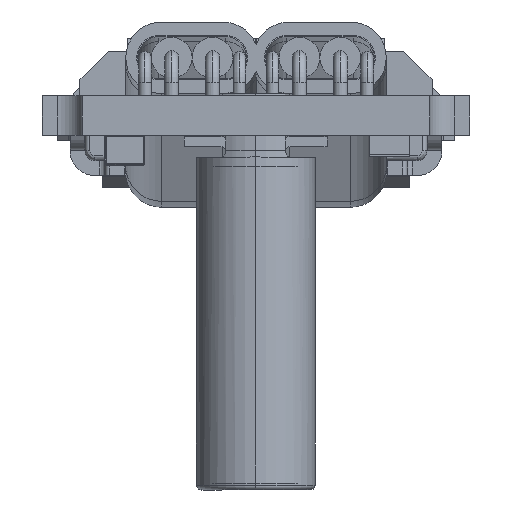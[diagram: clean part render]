
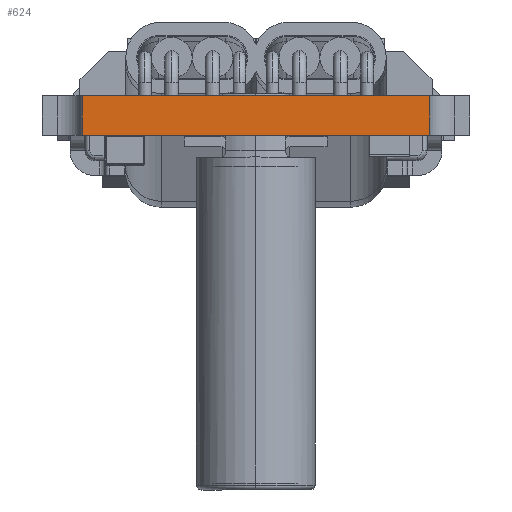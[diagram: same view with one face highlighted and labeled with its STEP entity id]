
A CAD part, front view. The second image highlights one B-rep face of the part: STEP entity #624.
In plain terms, the highlighted planar face has unit normal (0.001, -1, 0).
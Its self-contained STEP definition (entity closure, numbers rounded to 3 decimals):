
#599 = VERTEX_POINT('',#600);
#600 = CARTESIAN_POINT('',(5.011,2.517,0.8));
#606 = EDGE_CURVE('',#607,#599,#609,.T.);
#607 = VERTEX_POINT('',#608);
#608 = CARTESIAN_POINT('',(5.011,2.517,0.));
#609 = LINE('',#610,#611);
#610 = CARTESIAN_POINT('',(5.011,2.517,0.));
#611 = VECTOR('',#612,1.);
#612 = DIRECTION('',(0.,0.,1.));
#624 = ADVANCED_FACE('',(#625),#650,.F.);
#625 = FACE_BOUND('',#626,.F.);
#626 = EDGE_LOOP('',(#627,#628,#636,#644));
#627 = ORIENTED_EDGE('',*,*,#606,.T.);
#628 = ORIENTED_EDGE('',*,*,#629,.T.);
#629 = EDGE_CURVE('',#599,#630,#632,.T.);
#630 = VERTEX_POINT('',#631);
#631 = CARTESIAN_POINT('',(12.017,2.524,0.8));
#632 = LINE('',#633,#634);
#633 = CARTESIAN_POINT('',(5.011,2.517,0.8));
#634 = VECTOR('',#635,1.);
#635 = DIRECTION('',(1.,0.001,0.));
#636 = ORIENTED_EDGE('',*,*,#637,.F.);
#637 = EDGE_CURVE('',#638,#630,#640,.T.);
#638 = VERTEX_POINT('',#639);
#639 = CARTESIAN_POINT('',(12.017,2.524,0.));
#640 = LINE('',#641,#642);
#641 = CARTESIAN_POINT('',(12.017,2.524,0.));
#642 = VECTOR('',#643,1.);
#643 = DIRECTION('',(0.,0.,1.));
#644 = ORIENTED_EDGE('',*,*,#645,.F.);
#645 = EDGE_CURVE('',#607,#638,#646,.T.);
#646 = LINE('',#647,#648);
#647 = CARTESIAN_POINT('',(5.011,2.517,0.));
#648 = VECTOR('',#649,1.);
#649 = DIRECTION('',(1.,0.001,0.));
#650 = PLANE('',#651);
#651 = AXIS2_PLACEMENT_3D('',#652,#653,#654);
#652 = CARTESIAN_POINT('',(5.011,2.517,0.));
#653 = DIRECTION('',(-0.001,1.,0.));
#654 = DIRECTION('',(1.,0.001,0.));
